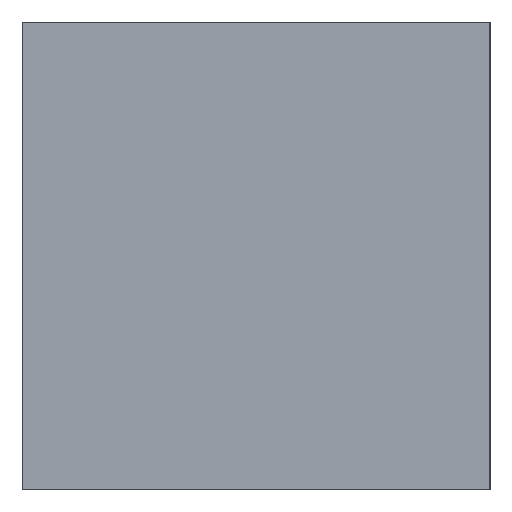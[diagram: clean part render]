
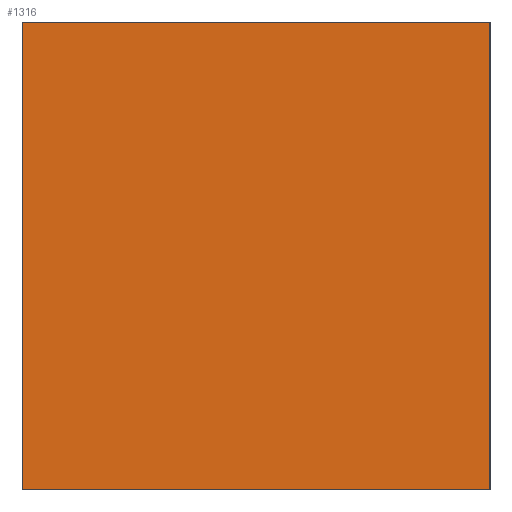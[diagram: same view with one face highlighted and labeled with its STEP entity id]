
A CAD part, left-side view. The second image highlights one B-rep face of the part: STEP entity #1316.
In plain terms, the highlighted planar face has unit normal (1, 0, 0).
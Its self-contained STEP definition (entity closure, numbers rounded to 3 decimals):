
#1277=CARTESIAN_POINT('Axis2P3D Location',(-50.,0.,0.)) ;
#1282=CARTESIAN_POINT('Line Origine',(-50.,0.,-20.)) ;
#1286=CARTESIAN_POINT('Vertex',(-50.,-10.,-20.)) ;
#1288=CARTESIAN_POINT('Vertex',(-50.,10.,-20.)) ;
#1291=CARTESIAN_POINT('Line Origine',(-50.,10.,-10.)) ;
#1295=CARTESIAN_POINT('Vertex',(-50.,10.,0.)) ;
#1298=CARTESIAN_POINT('Line Origine',(-50.,0.,0.)) ;
#1302=CARTESIAN_POINT('Vertex',(-50.,-10.,0.)) ;
#1305=CARTESIAN_POINT('Line Origine',(-50.,-10.,-10.)) ;
#1278=DIRECTION('Axis2P3D Direction',(1.,0.,0.)) ;
#1279=DIRECTION('Axis2P3D XDirection',(0.,1.,0.)) ;
#1283=DIRECTION('Vector Direction',(0.,1.,0.)) ;
#1292=DIRECTION('Vector Direction',(0.,0.,1.)) ;
#1299=DIRECTION('Vector Direction',(0.,-1.,0.)) ;
#1306=DIRECTION('Vector Direction',(0.,0.,-1.)) ;
#1280=AXIS2_PLACEMENT_3D('Plane Axis2P3D',#1277,#1278,#1279) ;
#1311=ORIENTED_EDGE('',*,*,#1290,.T.) ;
#1312=ORIENTED_EDGE('',*,*,#1297,.T.) ;
#1313=ORIENTED_EDGE('',*,*,#1304,.T.) ;
#1314=ORIENTED_EDGE('',*,*,#1309,.T.) ;
#1284=VECTOR('Line Direction',#1283,1.) ;
#1293=VECTOR('Line Direction',#1292,1.) ;
#1300=VECTOR('Line Direction',#1299,1.) ;
#1307=VECTOR('Line Direction',#1306,1.) ;
#1316=ADVANCED_FACE('MANIFOLD_SOLID_BREP #3622',(#1315),#1281,.T.) ;
#1290=EDGE_CURVE('',#1287,#1289,#1285,.T.) ;
#1297=EDGE_CURVE('',#1289,#1296,#1294,.T.) ;
#1304=EDGE_CURVE('',#1296,#1303,#1301,.T.) ;
#1309=EDGE_CURVE('',#1303,#1287,#1308,.T.) ;
#1310=EDGE_LOOP('',(#1311,#1312,#1313,#1314)) ;
#1315=FACE_OUTER_BOUND('',#1310,.T.) ;
#1285=LINE('Line',#1282,#1284) ;
#1294=LINE('Line',#1291,#1293) ;
#1301=LINE('Line',#1298,#1300) ;
#1308=LINE('Line',#1305,#1307) ;
#1281=PLANE('Plane',#1280) ;
#1287=VERTEX_POINT('',#1286) ;
#1289=VERTEX_POINT('',#1288) ;
#1296=VERTEX_POINT('',#1295) ;
#1303=VERTEX_POINT('',#1302) ;
